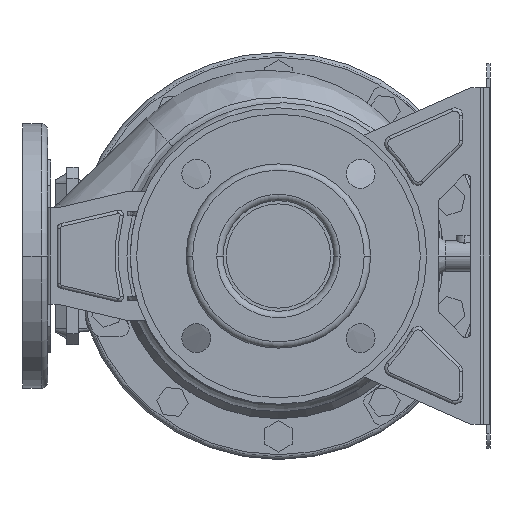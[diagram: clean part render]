
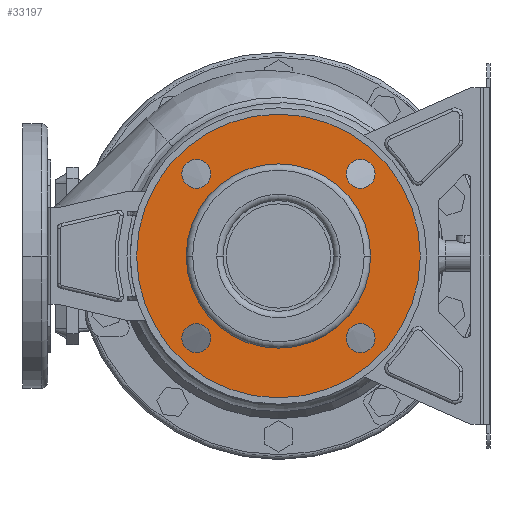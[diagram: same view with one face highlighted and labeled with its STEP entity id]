
A CAD part, front view. The second image highlights one B-rep face of the part: STEP entity #33197.
In plain terms, the highlighted planar face has unit normal (0, -1, 0) as drawn and (-1, 0, 0) by its records, which use the part's own axes.
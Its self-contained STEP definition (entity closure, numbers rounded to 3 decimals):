
#32530=CARTESIAN_POINT('',(12.,0.,0.));
#32531=DIRECTION('',(-1.,0.,0.));
#32532=DIRECTION('',(0.,1.,0.));
#32533=AXIS2_PLACEMENT_3D('',#32530,#32531,#32532);
#32538=CARTESIAN_POINT('',(12.,0.,0.));
#32539=DIRECTION('',(1.,0.,0.));
#32540=DIRECTION('',(0.,1.,0.));
#32541=AXIS2_PLACEMENT_3D('',#32538,#32539,#32540);
#32546=CARTESIAN_POINT('',(12.,-51.265,51.265));
#32547=DIRECTION('',(1.,0.,0.));
#32548=DIRECTION('',(0.,1.,0.));
#32549=AXIS2_PLACEMENT_3D('',#32546,#32547,#32548);
#32554=CARTESIAN_POINT('',(12.,-51.265,51.265));
#32555=DIRECTION('',(1.,0.,0.));
#32556=DIRECTION('',(0.,-1.,0.));
#32557=AXIS2_PLACEMENT_3D('',#32554,#32555,#32556);
#32562=CARTESIAN_POINT('',(12.,-51.265,-51.265));
#32563=DIRECTION('',(1.,0.,0.));
#32564=DIRECTION('',(0.,0.,1.));
#32565=AXIS2_PLACEMENT_3D('',#32562,#32563,#32564);
#32570=CARTESIAN_POINT('',(12.,-51.265,-51.265));
#32571=DIRECTION('',(1.,0.,0.));
#32572=DIRECTION('',(0.,0.,-1.));
#32573=AXIS2_PLACEMENT_3D('',#32570,#32571,#32572);
#32578=CARTESIAN_POINT('',(12.,51.265,-51.265));
#32579=DIRECTION('',(1.,0.,0.));
#32580=DIRECTION('',(0.,-1.,0.));
#32581=AXIS2_PLACEMENT_3D('',#32578,#32579,#32580);
#32586=CARTESIAN_POINT('',(12.,51.265,-51.265));
#32587=DIRECTION('',(1.,0.,0.));
#32588=DIRECTION('',(0.,1.,0.));
#32589=AXIS2_PLACEMENT_3D('',#32586,#32587,#32588);
#32594=CARTESIAN_POINT('',(12.,51.265,51.265));
#32595=DIRECTION('',(1.,0.,0.));
#32596=DIRECTION('',(0.,0.,-1.));
#32597=AXIS2_PLACEMENT_3D('',#32594,#32595,#32596);
#32602=CARTESIAN_POINT('',(12.,51.265,51.265));
#32603=DIRECTION('',(1.,0.,0.));
#32604=DIRECTION('',(0.,0.,1.));
#32605=AXIS2_PLACEMENT_3D('',#32602,#32603,#32604);
#32610=CARTESIAN_POINT('',(12.,0.,0.));
#32611=DIRECTION('',(1.,0.,0.));
#32612=DIRECTION('',(0.,1.,0.));
#32613=AXIS2_PLACEMENT_3D('',#32610,#32611,#32612);
#32632=CARTESIAN_POINT('',(12.,0.,0.));
#32633=DIRECTION('',(-1.,0.,0.));
#32634=DIRECTION('',(0.,1.,0.));
#32635=AXIS2_PLACEMENT_3D('',#32632,#32633,#32634);
#32797=CARTESIAN_POINT('',(12.,88.5,0.));
#32799=VERTEX_POINT('',#32797);
#32800=CARTESIAN_POINT('',(12.,57.5,0.));
#32802=VERTEX_POINT('',#32800);
#32829=CARTESIAN_POINT('',(12.,-88.5,0.));
#32831=VERTEX_POINT('',#32829);
#32832=CARTESIAN_POINT('',(12.,-57.5,0.));
#32834=VERTEX_POINT('',#32832);
#32844=CARTESIAN_POINT('',(12.,-42.265,51.265));
#32845=CARTESIAN_POINT('',(12.,-60.265,51.265));
#32846=VERTEX_POINT('',#32844);
#32847=VERTEX_POINT('',#32845);
#32852=CARTESIAN_POINT('',(12.,-51.265,-42.265));
#32853=CARTESIAN_POINT('',(12.,-51.265,-60.265));
#32854=VERTEX_POINT('',#32852);
#32855=VERTEX_POINT('',#32853);
#32860=CARTESIAN_POINT('',(12.,42.265,-51.265));
#32861=CARTESIAN_POINT('',(12.,60.265,-51.265));
#32862=VERTEX_POINT('',#32860);
#32863=VERTEX_POINT('',#32861);
#32868=CARTESIAN_POINT('',(12.,51.265,42.265));
#32869=CARTESIAN_POINT('',(12.,51.265,60.265));
#32870=VERTEX_POINT('',#32868);
#32871=VERTEX_POINT('',#32869);
#33158=CARTESIAN_POINT('',(12.,0.,0.));
#33159=DIRECTION('',(1.,0.,0.));
#33160=DIRECTION('',(0.,-1.,0.));
#33161=AXIS2_PLACEMENT_3D('',#33158,#33159,#33160);
#33162=PLANE('',#33161);
#33163=ORIENTED_EDGE('',*,*,#33151,.F.);
#33164=ORIENTED_EDGE('',*,*,#33140,.T.);
#33165=EDGE_LOOP('',(#33163,#33164));
#33166=FACE_OUTER_BOUND('',#33165,.F.);
#33168=ORIENTED_EDGE('',*,*,#33167,.F.);
#33170=ORIENTED_EDGE('',*,*,#33169,.T.);
#33171=EDGE_LOOP('',(#33168,#33170));
#33172=FACE_BOUND('',#33171,.F.);
#33174=ORIENTED_EDGE('',*,*,#33173,.F.);
#33176=ORIENTED_EDGE('',*,*,#33175,.F.);
#33177=EDGE_LOOP('',(#33174,#33176));
#33178=FACE_BOUND('',#33177,.F.);
#33180=ORIENTED_EDGE('',*,*,#33179,.F.);
#33182=ORIENTED_EDGE('',*,*,#33181,.F.);
#33183=EDGE_LOOP('',(#33180,#33182));
#33184=FACE_BOUND('',#33183,.F.);
#33186=ORIENTED_EDGE('',*,*,#33185,.F.);
#33188=ORIENTED_EDGE('',*,*,#33187,.F.);
#33189=EDGE_LOOP('',(#33186,#33188));
#33190=FACE_BOUND('',#33189,.F.);
#33192=ORIENTED_EDGE('',*,*,#33191,.F.);
#33194=ORIENTED_EDGE('',*,*,#33193,.F.);
#33195=EDGE_LOOP('',(#33192,#33194));
#33196=FACE_BOUND('',#33195,.F.);
#32534=CIRCLE('',#32533,88.5);
#32542=CIRCLE('',#32541,88.5);
#32550=CIRCLE('',#32549,9.);
#32558=CIRCLE('',#32557,9.);
#32566=CIRCLE('',#32565,9.);
#32574=CIRCLE('',#32573,9.);
#32582=CIRCLE('',#32581,9.);
#32590=CIRCLE('',#32589,9.);
#32598=CIRCLE('',#32597,9.);
#32606=CIRCLE('',#32605,9.);
#32614=CIRCLE('',#32613,57.5);
#32636=CIRCLE('',#32635,57.5);
#33140=EDGE_CURVE('',#32799,#32831,#32542,.T.);
#33151=EDGE_CURVE('',#32799,#32831,#32534,.T.);
#33167=EDGE_CURVE('',#32802,#32834,#32614,.T.);
#33169=EDGE_CURVE('',#32802,#32834,#32636,.T.);
#33173=EDGE_CURVE('',#32846,#32847,#32550,.T.);
#33175=EDGE_CURVE('',#32847,#32846,#32558,.T.);
#33179=EDGE_CURVE('',#32854,#32855,#32566,.T.);
#33181=EDGE_CURVE('',#32855,#32854,#32574,.T.);
#33185=EDGE_CURVE('',#32862,#32863,#32582,.T.);
#33187=EDGE_CURVE('',#32863,#32862,#32590,.T.);
#33191=EDGE_CURVE('',#32870,#32871,#32598,.T.);
#33193=EDGE_CURVE('',#32871,#32870,#32606,.T.);
#33197=ADVANCED_FACE('',(#33166,#33172,#33178,#33184,#33190,#33196),#33162,.F.);
